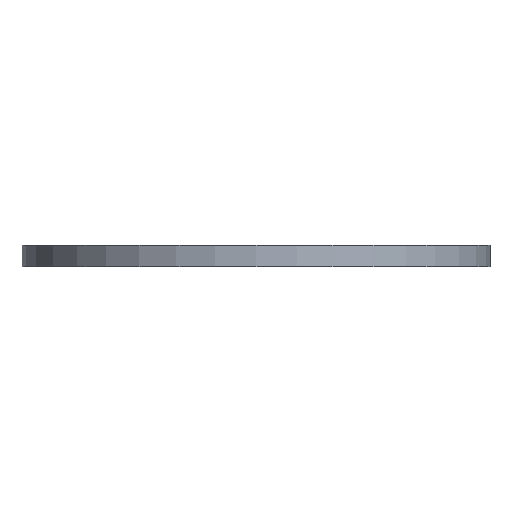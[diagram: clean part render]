
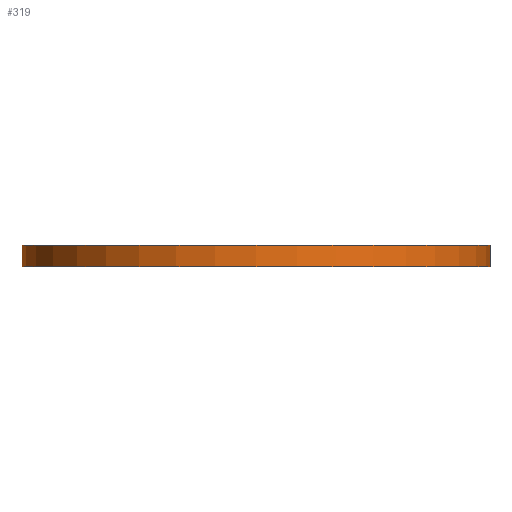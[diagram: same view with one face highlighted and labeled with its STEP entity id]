
A CAD part, front view. The second image highlights one B-rep face of the part: STEP entity #319.
In plain terms, the highlighted cylindrical face has radius 202.5 mm (diameter 405 mm), a partial arc.
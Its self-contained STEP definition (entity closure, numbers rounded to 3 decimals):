
#39 = DIRECTION ( 'NONE',  ( 0., 0., 1. ) ) ;
#63 = CARTESIAN_POINT ( 'NONE',  ( -202.5, 0., 19. ) ) ;
#73 = VECTOR ( 'NONE', #315, 1000. ) ;
#101 = CYLINDRICAL_SURFACE ( 'NONE', #366, 202.5 ) ;
#109 = EDGE_CURVE ( 'NONE', #165, #467, #298, .T. ) ;
#118 = CARTESIAN_POINT ( 'NONE',  ( 0., 0., 19. ) ) ;
#149 = CARTESIAN_POINT ( 'NONE',  ( -202.5, 0., 19. ) ) ;
#162 = AXIS2_PLACEMENT_3D ( 'NONE', #118, #227, #214 ) ;
#165 = VERTEX_POINT ( 'NONE', #63 ) ;
#176 = CARTESIAN_POINT ( 'NONE',  ( 0., 0., 19. ) ) ;
#214 = DIRECTION ( 'NONE',  ( 1., 0., 0. ) ) ;
#226 = VERTEX_POINT ( 'NONE', #395 ) ;
#227 = DIRECTION ( 'NONE',  ( 0., 0., 1. ) ) ;
#228 = ORIENTED_EDGE ( 'NONE', *, *, #671, .F. ) ;
#239 = ORIENTED_EDGE ( 'NONE', *, *, #765, .T. ) ;
#275 = CIRCLE ( 'NONE', #360, 202.5 ) ;
#288 = LINE ( 'NONE', #444, #566 ) ;
#296 = EDGE_LOOP ( 'NONE', ( #451, #228, #455, #239 ) ) ;
#298 = LINE ( 'NONE', #149, #73 ) ;
#315 = DIRECTION ( 'NONE',  ( 0., 0., -1. ) ) ;
#319 = ADVANCED_FACE ( 'NONE', ( #359 ), #101, .T. ) ;
#359 = FACE_OUTER_BOUND ( 'NONE', #296, .T. ) ;
#360 = AXIS2_PLACEMENT_3D ( 'NONE', #687, #39, #379 ) ;
#366 = AXIS2_PLACEMENT_3D ( 'NONE', #176, #414, #374 ) ;
#374 = DIRECTION ( 'NONE',  ( -1., 0., 0. ) ) ;
#379 = DIRECTION ( 'NONE',  ( 1., 0., 0. ) ) ;
#395 = CARTESIAN_POINT ( 'NONE',  ( 202.5, 0., 0. ) ) ;
#414 = DIRECTION ( 'NONE',  ( 0., 0., -1. ) ) ;
#422 = VERTEX_POINT ( 'NONE', #578 ) ;
#444 = CARTESIAN_POINT ( 'NONE',  ( 202.5, 0., 19. ) ) ;
#451 = ORIENTED_EDGE ( 'NONE', *, *, #552, .F. ) ;
#455 = ORIENTED_EDGE ( 'NONE', *, *, #109, .T. ) ;
#467 = VERTEX_POINT ( 'NONE', #486 ) ;
#486 = CARTESIAN_POINT ( 'NONE',  ( -202.5, 0., 0. ) ) ;
#487 = CIRCLE ( 'NONE', #162, 202.5 ) ;
#552 = EDGE_CURVE ( 'NONE', #422, #226, #288, .T. ) ;
#566 = VECTOR ( 'NONE', #705, 1000. ) ;
#578 = CARTESIAN_POINT ( 'NONE',  ( 202.5, 0., 19. ) ) ;
#671 = EDGE_CURVE ( 'NONE', #165, #422, #487, .T. ) ;
#687 = CARTESIAN_POINT ( 'NONE',  ( 0., 0., 0. ) ) ;
#705 = DIRECTION ( 'NONE',  ( 0., 0., -1. ) ) ;
#765 = EDGE_CURVE ( 'NONE', #467, #226, #275, .T. ) ;
